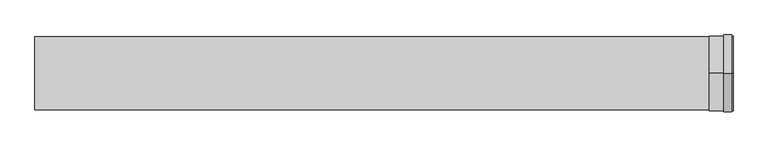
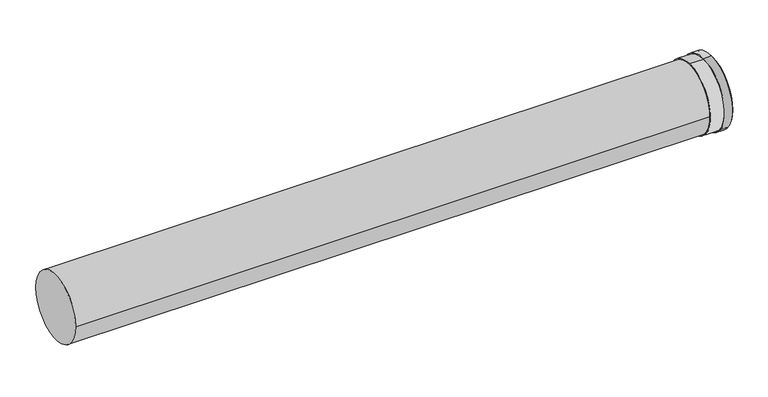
"""IFC4 building model written with IfcOpenShell, lengths in millimetres: duct fitting geometry, DERS_431_LFT_UN_Twinline Extension_M&G : ø130-150-200."""

from ifc_helpers import new_model, si_unit, point, frame, origin, origin_2d, place, context, project, spatial, polyline, circle_curve, trimmed, segment, composite_curve, outline, extrude, source, transform, mapped, element, save
from ifc_brep_helpers import plane_surface, cylinder_surface, revolved_surface, advanced_brep


def duct_fitting_632ce2a9(model_context):
    return source(origin(), model_context, "Body", "SolidModel", [
        extrude(outline(composite_curve([segment(trimmed(circle_curve(origin_2d(), 106.0), [point((0.0, 106.0))], [point((0.0, -106.0))], False, "CARTESIAN"), True, "CONTINUOUS"), segment(trimmed(circle_curve(origin_2d(), 106.0), [point((0.0, -106.0))], [point((0.0, 106.0))], False, "CARTESIAN"), True, "CONTINUOUS")], self_intersect=False), holes=[composite_curve([segment(trimmed(circle_curve(origin_2d(), 103.0), [point((0.0, -103.0))], [point((0.0, 103.0))], True, "CARTESIAN"), True, "CONTINUOUS"), segment(trimmed(circle_curve(origin_2d(), 103.0), [point((0.0, 103.0))], [point((0.0, -103.0))], True, "CARTESIAN"), True, "CONTINUOUS")], self_intersect=False)]), frame((1889.5, 0.0, 0.0), z_axis=(1.0, 0.0, 0.0), x_axis=(0.0, 1.0, 0.0)), (0.0, 0.0, 1.0), 22.5),
        advanced_brep(
        [(1915.0, 0.0, -103.0), (1915.0, 0.0, 103.0), (1915.0, 0.0, 99.0), (1915.0, 0.0, -99.0), (1850.0, 0.0, -103.0), (1850.0, 0.0, 103.0), (1855.0, 0.0, -99.0), (1855.0, 0.0, 99.0)],
        [
            (0, 1, circle_curve(frame((1915.0, 0.0, 0.0), z_axis=(1.0, 0.0, 0.0), x_axis=(0.0, 0.0, 1.0)), 103.0)),
            (1, 0, circle_curve(frame((1915.0, 0.0, 0.0), z_axis=(1.0, 0.0, 0.0), x_axis=(0.0, 0.0, 1.0)), 103.0)),
            (2, 3, circle_curve(frame((1915.0, 0.0, 0.0), z_axis=(-1.0, 0.0, 0.0), x_axis=(0.0, 0.0, 1.0)), 99.0)),
            (3, 2, circle_curve(frame((1915.0, 0.0, 0.0), z_axis=(-1.0, 0.0, 0.0), x_axis=(0.0, 0.0, 1.0)), 99.0)),
            (4, 5, circle_curve(frame((1850.0, 0.0, 0.0), z_axis=(-1.0, 0.0, 0.0), x_axis=(0.0, 0.0, 1.0)), 103.0)),
            (5, 4, circle_curve(frame((1850.0, 0.0, 0.0), z_axis=(-1.0, 0.0, 0.0), x_axis=(0.0, 0.0, 1.0)), 103.0)),
            (1, 5),
            (4, 0),
            (6, 7, circle_curve(frame((1855.0, 0.0, 0.0), z_axis=(1.0, 0.0, 0.0), x_axis=(0.0, 0.0, 1.0)), 99.0)),
            (7, 6, circle_curve(frame((1855.0, 0.0, 0.0), z_axis=(1.0, 0.0, 0.0), x_axis=(0.0, 0.0, 1.0)), 99.0)),
            (7, 2),
            (3, 6),
        ],
        [
            plane_surface(frame((1915.0, 0.0, 103.0), z_axis=(1.0, 0.0, 0.0), x_axis=(0.0, 1.0, 0.0))),
            plane_surface(frame((1850.0, 0.0, 103.0), z_axis=(-1.0, 0.0, 0.0), x_axis=(0.0, -1.0, 0.0))),
            cylinder_surface(frame((1850.0, 0.0, 0.0), z_axis=(1.0, 0.0, 0.0), x_axis=(0.0, 0.0, 1.0)), 103.0),
            plane_surface(frame((1855.0, 0.0, 99.0), z_axis=(1.0, 0.0, 0.0), x_axis=(0.0, -1.0, 0.0))),
            revolved_surface(polyline([(1915.0, 0.0, 99.0), (1855.0, 0.0, 99.0)]), (1855.0, 0.0, 0.0), (1.0, 0.0, 0.0)),
        ],
        [
            (0, [[1, 2], [3, 4]]),
            (1, [[5, 6]]),
            (2, [[7, -5, 8, -2]]),
            (2, [[-8, -6, -7, -1]]),
            (3, [[9, 10]]),
            (4, [[11, -4, 12, -10]]),
            (4, [[-12, -3, -11, -9]]),
        ],
    ),
        extrude(outline(composite_curve([segment(trimmed(circle_curve(origin_2d(), 100.0), [point((-100.0, 0.0))], [point((100.0, 0.0))], False, "CARTESIAN"), True, "CONTINUOUS"), segment(trimmed(circle_curve(origin_2d(), 100.0), [point((100.0, 0.0))], [point((-100.0, 0.0))], False, "CARTESIAN"), True, "CONTINUOUS")], self_intersect=False)), frame((-2.39e-05, 0.0, 0.0), z_axis=(1.0, 0.0, 0.0), x_axis=(0.0, 1.0, 0.0)), (0.0, 0.0, 1.0), 1855.0),
    ])


if __name__ == "__main__":
    model = new_model("IFC4")
    model_context = context("Model", 3, world=origin())
    ifc_project = project(units=[si_unit("LENGTHUNIT", "METRE", prefix="MILLI")], contexts=[model_context])
    site = spatial("IfcSite", under=ifc_project)
    building = spatial("IfcBuilding", under=site)
    placement = place(None, origin())
    duct_fitting_shape = duct_fitting_632ce2a9(model_context)
    element("IfcDuctFitting", 1, ObjectType="DERS_431_LFT_UN_Twinline Extension_M&G : ø130-150-200", at=placement, inside=building, context=model_context, shape_type="MappedRepresentation", body=[
        mapped(duct_fitting_shape, transform((0.0, 0.0, 0.0), x_axis=(1.0, 0.0, 0.0), y_axis=(0.0, 1.0, 0.0), z_axis=(0.0, 0.0, 1.0))),
    ])
    save(model, "model.ifc")
